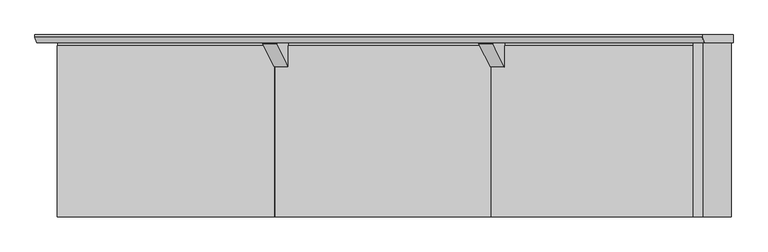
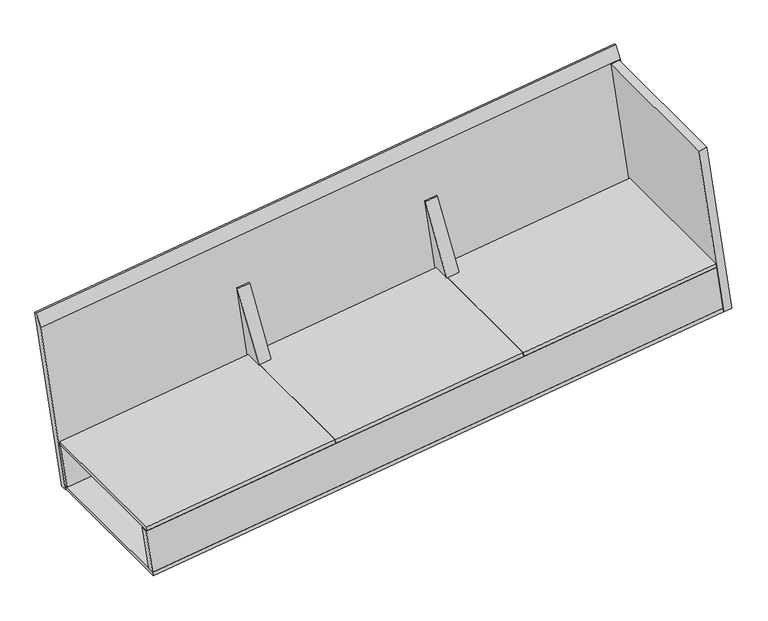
"""IFC4 building model written with IfcOpenShell, lengths in millimetres: proxy geometry, VIEWLINE^TABLE 3_LEFT TOP SECTION-ASSEMBLY."""

from ifc_helpers import new_model, si_unit, frame, origin, place, context, project, spatial, polyline, outline, extrude, source, transform, mapped, element, save


def generic_models_f61c2e13(model_context):
    return source(origin(), model_context, "Body", "SweptSolid", [
        extrude(outline(polyline([(-455.6124999, -349.25), (-455.6124999, 349.25), (455.6125, 349.25), (455.6125, -349.25), (-455.6124999, -349.25)])), frame((3253.6182701, -361.95, -226.3496137), z_axis=(-0.13797415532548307, 0.0, 0.9904358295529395), x_axis=(-0.9904358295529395, 0.0, -0.13797415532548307)), (0.0, 0.0, 1.0), 19.05),
        extrude(outline(polyline([(2698.75, 0.0), (0.0, 0.0), (0.0, 19.05), (2698.75, 19.05), (2698.75, 0.0)])), frame((3736.2341515, 0.0, -377.1029255), z_axis=(-0.13797415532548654, 0.0, 0.9904358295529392), x_axis=(-0.9904358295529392, 0.0, -0.13797415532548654)), (0.0, 0.0, 1.0), 215.9),
        extrude(outline(polyline([(443.70625, -349.25), (-443.70625, -349.25), (-443.70625, 349.25), (443.70625, 349.25), (443.70625, -349.25)])), frame((2361.328441, -361.95, -350.6513926), z_axis=(-0.13797415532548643, 0.0, 0.9904358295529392), x_axis=(-0.9904358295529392, 0.0, -0.13797415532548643)), (0.0, 0.0, 1.0), 19.05),
        extrude(outline(polyline([(2.54, 0.0), (-200.66, 0.0), (-200.66, 63.5), (-100.7942102, 63.5), (-3.81, 425.45), (2.54, 425.45), (2.54, 0.0)])), frame((2807.0366606, -2.54, -352.6745271), z_axis=(0.9904358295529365, 0.0, 0.1379741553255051), x_axis=(0.0, 1.0000000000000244, 0.0)), (0.0, 0.0, 1.0), 57.15),
        extrude(outline(polyline([(38.1, 0.0), (0.0, 0.0), (0.0, 711.2), (38.1, 711.2), (38.1, 0.0)])), frame((3776.5981642, 0.0, -390.7139127), z_axis=(-0.13797415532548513, 0.0, 0.9904358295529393), x_axis=(-0.9904358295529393, 0.0, -0.13797415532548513)), (0.0, 0.0, 1.0), 844.55),
        extrude(outline(polyline([(0.0, 0.0), (12.7, 0.0), (12.7, -196.8499999), (0.0, -196.8499999), (0.0, 0.0)])), frame((2931.2414443, 19.05, -454.9717136), z_axis=(-0.1379741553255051, 0.0, 0.9904358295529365), x_axis=(0.0, 1.0000000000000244, 0.0)), (0.0, 0.0, 1.0), 133.35),
        extrude(outline(polyline([(2698.75, 0.0), (0.0, 0.0), (0.0, 31.75), (2698.75, 31.75), (2698.75, 0.0)])), frame((1063.2954565, -711.2, -749.4606772), z_axis=(-0.13797415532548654, 0.0, 0.9904358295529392), x_axis=(0.9904358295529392, 0.0, 0.13797415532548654)), (0.0, 0.0, 1.0), 215.9),
        extrude(outline(polyline([(2.54, 0.0), (-200.66, 0.0), (-200.66, 63.5), (-100.7942102, 63.5), (-3.81, 425.45), (2.54, 425.45), (2.54, 0.0)])), frame((1926.5392082, -2.54, -475.3335512), z_axis=(0.9904358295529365, 0.0, 0.1379741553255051), x_axis=(0.0, 1.0000000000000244, 0.0)), (0.0, 0.0, 1.0), 57.15),
        extrude(outline(polyline([(0.0, 0.0), (12.7, 0.0), (12.7, -196.85), (0.0, -196.85), (0.0, 0.0)])), frame((1663.9540395, 19.05, -631.5130947), z_axis=(-0.1379741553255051, 0.0, 0.9904358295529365), x_axis=(0.0, 1.0000000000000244, 0.0)), (0.0, 0.0, 1.0), 133.35),
        extrude(outline(polyline([(853.3373144, 0.0), (914.4000001, -22.225), (914.4000001, -31.75), (0.0, -31.75), (0.0, 0.0), (853.3373144, 0.0)])), frame((1066.8, 0.0, -774.6177473), z_axis=(0.9904358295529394, 0.0, 0.13797415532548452), x_axis=(-0.13797415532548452, 0.0, 0.9904358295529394)), (0.0, 0.0, 1.0), 2743.2),
        extrude(outline(polyline([(446.88125, -349.25), (-446.8812499, -349.25), (-446.8812499, 349.25), (446.88125, 349.25), (446.88125, -349.25)])), frame((1477.6863548, -361.95, -473.7484846), z_axis=(-0.13797415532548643, 0.0, 0.9904358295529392), x_axis=(-0.9904358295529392, 0.0, -0.13797415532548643)), (0.0, 0.0, 1.0), 19.05),
        extrude(outline(polyline([(2698.75, 0.0), (0.0, 0.0), (0.0, 711.2), (2698.75, 711.2), (2698.75, 0.0)])), frame((3738.8625591, 0.0, -395.9707281), z_axis=(-0.13797415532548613, 0.0, 0.9904358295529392), x_axis=(-0.9904358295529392, 0.0, -0.13797415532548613)), (0.0, 0.0, 1.0), 19.05),
    ])


if __name__ == "__main__":
    model = new_model("IFC4")
    model_context = context("Model", 3, world=origin())
    ifc_project = project(units=[si_unit("LENGTHUNIT", "METRE", prefix="MILLI")], contexts=[model_context])
    site = spatial("IfcSite", under=ifc_project)
    building = spatial("IfcBuilding", under=site)
    placement = place(None, origin())
    generic_models_shape = generic_models_f61c2e13(model_context)
    element("IfcBuildingElementProxy", 1, Name="VIEWLINE^TABLE 3_LEFT TOP SECTION-ASSEMBLY", ObjectType="VIEWLINE^TABLE 3_LEFT TOP SECTION-ASSEMBLY", at=placement, inside=building, context=model_context, shape_type="MappedRepresentation", body=[
        mapped(generic_models_shape, transform((0.0, 0.0, 0.0), x_axis=(1.0, 0.0, 0.0), y_axis=(0.0, 1.0, 0.0), z_axis=(0.0, 0.0, 1.0))),
    ])
    save(model, "model.ifc")
